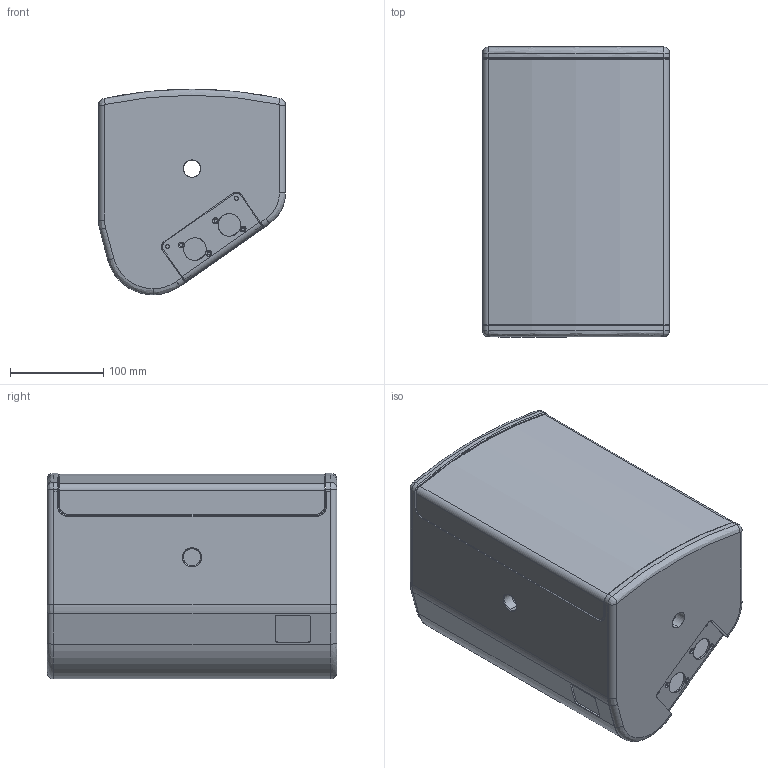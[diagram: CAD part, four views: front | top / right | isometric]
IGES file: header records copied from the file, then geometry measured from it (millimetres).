
Start section: SolidWorks IGES file using analytic representation for surfaces
Global section: file name: C:\Users\Michl\Documents\Michl\SolidWorks\X-Serie\3D-Dateien_Homepage\SEEBURG_X2.IGS; native system: SolidWorks 2009; preprocessor: SolidWorks 2009; author: Michl; date: 180920.102715; units: millimetre
Bounding box: 200 x 310 x 220 mm (x, y, z)
Surface area: 628015.7 mm2 (no closed solid volume)
Topology: 0 solids, 0 shells, 271 faces, 3239 edges, 3239 vertices
Faces by surface type: bspline 137, revolution 134
